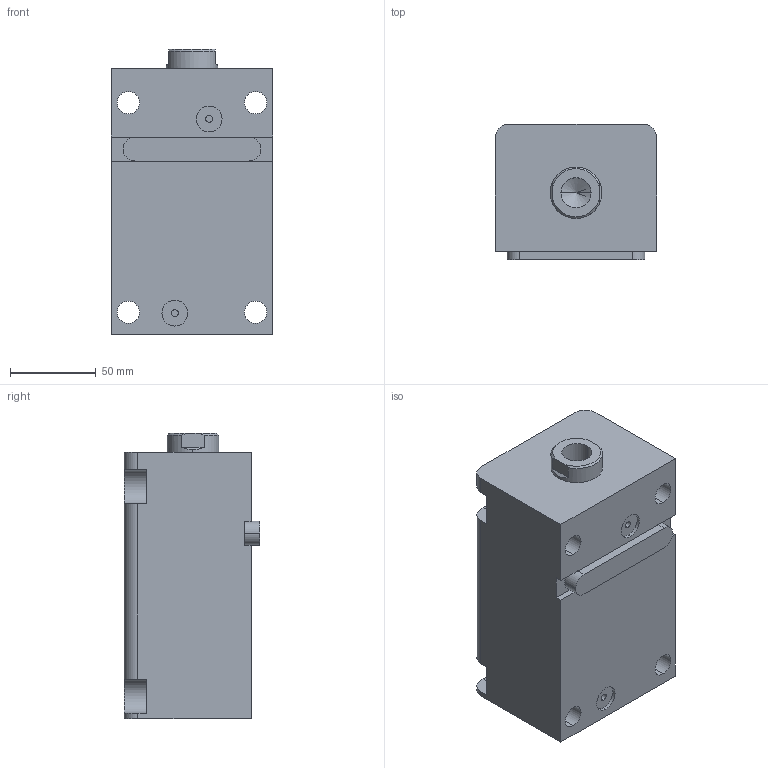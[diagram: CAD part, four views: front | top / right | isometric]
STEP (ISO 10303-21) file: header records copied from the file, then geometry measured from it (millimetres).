
FILE_DESCRIPTION (( 'STEP AP203' ), '1' );
FILE_NAME ('HTB-LAM50-95N.STEP', '2023-03-20T01:14:00', ( '微软用户' ), ( '微软中国' ), 'SwSTEP 2.0', 'SolidWorks 2012', '' );
FILE_SCHEMA (( 'CONFIG_CONTROL_DESIGN' ));
Length unit declared in the file: millimetre
Products named in the file (4): HTB-LAM50-95N; HTB-LWM50-瑩; HTB-LAM50-95N活塞杆; HTB-LAM50-95掛极
Assembly tree (3 placements, depth 2):
  HTB-LAM50-95N
    HTB-LAM50-95掛极
    HTB-LAM50-95N活塞杆
    HTB-LWM50-瑩
Bounding box: 94 x 79 x 166 mm (x, y, z)
Volume: 909111.6 mm3; surface area: 124975.3 mm2
Topology: 3 solids, 3 shells, 86 faces, 213 edges, 139 vertices
Faces by surface type: cylinder 39, plane 39, torus 4, cone 4
Entity records: 3001 total; most frequent: DIRECTION 475, CARTESIAN_POINT 470, ORIENTED_EDGE 422, EDGE_CURVE 211, AXIS2_PLACEMENT_3D 180, VERTEX_POINT 139, VECTOR 115, LINE 115
